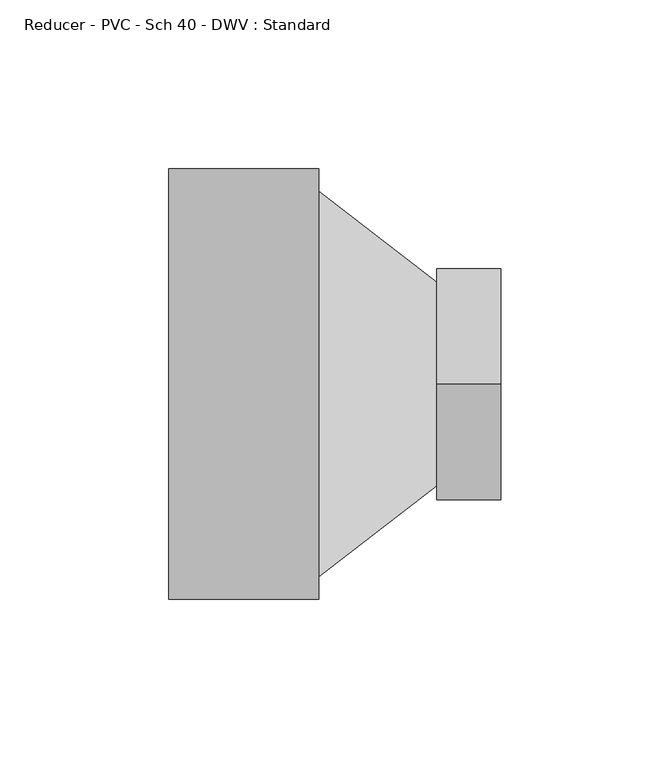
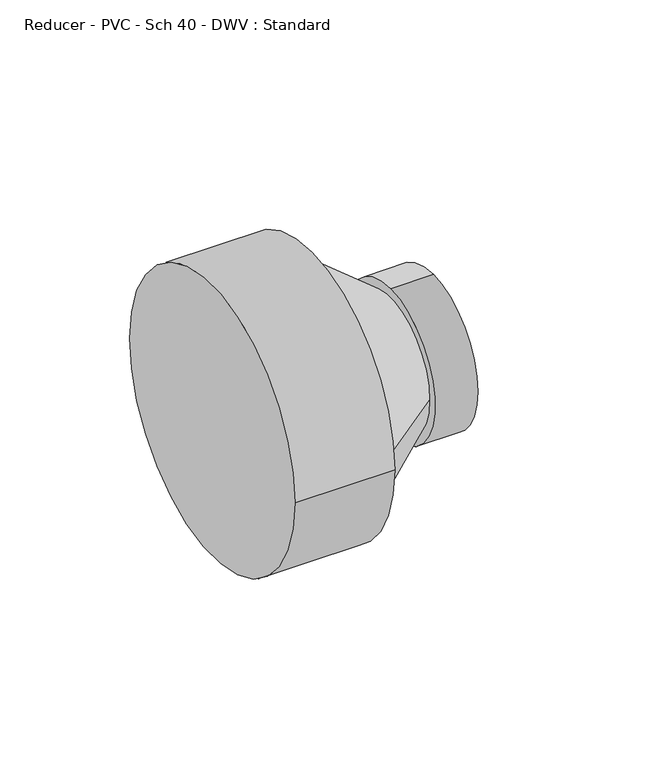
"""IFC4 building model written with IfcOpenShell, lengths in millimetres: pipe fitting geometry, Reducer - PVC - Sch 40 - DWV : Standard."""

import ifcopenshell
import ifcopenshell.guid

model = None  # the IFC model being written
_history = None  # IfcOwnerHistory: only IFC2X3 demands one
_inside = {}  # id of a spatial element -> (the spatial element, [elements in it])
_under = {}  # id of a project, library or spatial element -> (it, [spatial elements below it])
_declared = {}  # id of a project -> (the project, [libraries it declares])
_typed = {}  # id of a type object -> (the type object, [elements of that type])
_made_of = {}  # id of a material, layer set ... -> (it, [elements and type objects made of it])


def new_model(schema):
    """Start an empty IFC model of exactly this schema.

    Asked for "IFC4X3", IfcOpenShell would pick the latest addendum, in which some entities
    have other attributes; the version numbers below select the first issue.
    IFC2X3 requires an IfcOwnerHistory on every rooted entity: one is made here for all.
    """
    global model, _history
    if schema == "IFC4X3":
        model = ifcopenshell.file(schema_version=(4, 3, 0, 0))
    else:
        model = ifcopenshell.file(schema=schema)
    _inside.clear()
    _under.clear()
    _declared.clear()
    _typed.clear()
    _made_of.clear()
    _history = None
    if model.schema == "IFC2X3":
        org = make("IfcOrganization", Name="unknown")
        user = make(
            "IfcPersonAndOrganization",
            ThePerson=make("IfcPerson", FamilyName="unknown"),
            TheOrganization=org,
        )
        app = make(
            "IfcApplication",
            ApplicationDeveloper=org,
            Version="unknown",
            ApplicationFullName="unknown",
            ApplicationIdentifier="unknown",
        )
        _history = make(
            "IfcOwnerHistory",
            OwningUser=user,
            OwningApplication=app,
            ChangeAction="ADDED",
            CreationDate=0,
        )
    return model


def make(cls, **values):
    """One entity of the class cls with the attributes given. An attribute that is None is left unset."""
    return model.create_entity(
        cls, **{name: value for name, value in values.items() if value is not None}
    )


def rooted(cls, **values):
    """An entity with a GlobalId (a new one), such as an element, a storey or a relation."""
    return make(cls, GlobalId=ifcopenshell.guid.new(), OwnerHistory=_history, **values)


def si_unit(unit_type, name, prefix=None):
    """IfcSIUnit, for example si_unit("LENGTHUNIT", "METRE", prefix="MILLI")."""
    return make("IfcSIUnit", UnitType=unit_type, Prefix=prefix, Name=name)


def assignment(units):
    """IfcUnitAssignment: the units of a project."""
    return None if units is None else make("IfcUnitAssignment", Units=units)


def point(xyz):
    """IfcCartesianPoint."""
    return None if xyz is None else make("IfcCartesianPoint", Coordinates=xyz)


def direction(xyz):
    """IfcDirection."""
    return None if xyz is None else make("IfcDirection", DirectionRatios=xyz)


def frame(location, z_axis=None, x_axis=None):
    """IfcAxis2Placement3D, a coordinate frame: its origin and axes. An axis left out is left unset."""
    return make(
        "IfcAxis2Placement3D",
        Location=point(location),
        Axis=direction(z_axis),
        RefDirection=direction(x_axis),
    )


def origin():
    """The frame at (0, 0, 0) with its axes left unset."""
    return frame((0.0, 0.0, 0.0))


def place(relative_to, where):
    """IfcLocalPlacement: puts the frame where relative to a parent placement (None: the world)."""
    return make(
        "IfcLocalPlacement", PlacementRelTo=relative_to, RelativePlacement=where
    )


def context(
    kind, dimensions, precision=None, world=None, true_north=None, identifier=None
):
    """IfcGeometricRepresentationContext, for example the 3D "Model" context."""
    return make(
        "IfcGeometricRepresentationContext",
        ContextIdentifier=identifier,
        ContextType=kind,
        CoordinateSpaceDimension=dimensions,
        Precision=precision,
        WorldCoordinateSystem=world,
        TrueNorth=true_north,
    )


def project(units=None, contexts=None):
    """IfcProject with its units and contexts."""
    return rooted(
        "IfcProject",
        Name="project",
        RepresentationContexts=contexts,
        UnitsInContext=assignment(units),
    )


def spatial(cls, under=None, at=None, **own):
    """A site, building, storey or space (cls), placed at a placement, below another one or the project."""
    s = rooted(cls, ObjectPlacement=at, **own)
    if under is not None:
        _under.setdefault(under.id(), (under, []))[1].append(s)
    return s


def circle_curve(where, radius):
    """IfcCircle in the frame where."""
    return make("IfcCircle", Position=where, Radius=radius)


def shape(context_of_items, identifier, shape_type, items):
    """IfcShapeRepresentation: the items that make up one representation, for example the "Body"."""
    return make(
        "IfcShapeRepresentation",
        ContextOfItems=context_of_items,
        RepresentationIdentifier=identifier,
        RepresentationType=shape_type,
        Items=items,
    )


def source(mapping_origin, context_of_items, identifier, shape_type, items):
    """IfcRepresentationMap: a shape defined once, which mapped items show again and again."""
    return make(
        "IfcRepresentationMap",
        MappingOrigin=mapping_origin,
        MappedRepresentation=shape(context_of_items, identifier, shape_type, items),
    )


def transform(
    local_origin,
    x_axis=None,
    y_axis=None,
    z_axis=None,
    scale=None,
    scale2=None,
    scale3=None,
    uniform=True,
):
    """IfcCartesianTransformationOperator3D, or its non-uniform kind. x_axis, y_axis, z_axis: its Axis1, 2, 3."""
    if uniform:
        return make(
            "IfcCartesianTransformationOperator3D",
            Axis1=direction(x_axis),
            Axis2=direction(y_axis),
            LocalOrigin=point(local_origin),
            Scale=scale,
            Axis3=direction(z_axis),
        )
    return make(
        "IfcCartesianTransformationOperator3DnonUniform",
        Axis1=direction(x_axis),
        Axis2=direction(y_axis),
        LocalOrigin=point(local_origin),
        Scale=scale,
        Axis3=direction(z_axis),
        Scale2=scale2,
        Scale3=scale3,
    )


def mapped(mapping_source, mapping_target):
    """IfcMappedItem: shows the shape of a source again, moved by a transform."""
    return make(
        "IfcMappedItem", MappingSource=mapping_source, MappingTarget=mapping_target
    )


def made_of(thing, what):
    """Note that an element or type object is made of a material, layer set ...; save() writes the relation."""
    if what is not None:
        _made_of.setdefault(what.id(), (what, []))[1].append(thing)
    return thing


def element(
    cls,
    number,
    at=None,
    inside=None,
    cuts=None,
    type_object=None,
    material=None,
    context=None,
    identifier="Body",
    shape_type=None,
    held_by="IfcProductDefinitionShape",
    body=None,
    shapes=None,
    **own,
):
    """One element of the class cls, such as IfcWall. Its Tag is "e" and its number.

    at: its placement. inside: the storey or other place that contains it. cuts: it is an
    opening in that element (IfcRelVoidsElement). A single representation is given by context,
    identifier, shape_type and body (its items); several are given by shapes. held_by: the class
    of the entity that holds the representations. save() writes the other relations.
    """
    e = rooted(cls, Tag="e%d" % number, ObjectPlacement=at, **own)
    if body is not None:
        shapes = [shape(context, identifier, shape_type, body)]
    if shapes is not None:
        e.Representation = make(held_by, Representations=shapes)
    if inside is not None:
        _inside.setdefault(inside.id(), (inside, []))[1].append(e)
    if cuts is not None:
        rooted(
            "IfcRelVoidsElement", RelatingBuildingElement=cuts, RelatedOpeningElement=e
        )
    if type_object is not None:
        _typed.setdefault(type_object.id(), (type_object, []))[1].append(e)
    return made_of(e, material)


def aggregate(whole, parts):
    """IfcRelAggregates: a whole, such as a stair, and the parts it consists of."""
    return rooted("IfcRelAggregates", RelatingObject=whole, RelatedObjects=parts)


def save(model, path):
    """Write the relations noted so far, then the file.

    IfcRelAggregates (storeys below a building ...), IfcRelContainedInSpatialStructure (elements
    in a storey), IfcRelDefinesByType, IfcRelAssociatesMaterial and IfcRelDeclares: one each for
    every whole, place, type object, material and project.
    """
    for whole, parts in _under.values():
        aggregate(whole, parts)
    for where, things in _inside.values():
        rooted(
            "IfcRelContainedInSpatialStructure",
            RelatedElements=things,
            RelatingStructure=where,
        )
    for kind, things in _typed.values():
        rooted("IfcRelDefinesByType", RelatedObjects=things, RelatingType=kind)
    for what, things in _made_of.values():
        rooted("IfcRelAssociatesMaterial", RelatedObjects=things, RelatingMaterial=what)
    for by, libraries in _declared.values():
        rooted("IfcRelDeclares", RelatingContext=by, RelatedDefinitions=libraries)
    model.write(path)


def plane_surface(at):
    """IfcPlane: the flat surface through the origin of the frame at, square to its z axis."""
    return make("IfcPlane", Position=at)


def cylinder_surface(at, radius):
    """IfcCylindricalSurface: all points at the distance radius from the z axis of the frame at."""
    return make("IfcCylindricalSurface", Position=at, Radius=radius)


def spline_surface(u_degree, v_degree, points, u_multiplicities, v_multiplicities, u_knots, v_knots, weights=None):
    """IfcBSplineSurfaceWithKnots; with weights, IfcRationalBSplineSurfaceWithKnots. points: one row for each step in u."""
    own = dict(
        UDegree=u_degree,
        VDegree=v_degree,
        ControlPointsList=[[point(p) for p in row] for row in points],
        SurfaceForm="UNSPECIFIED",
        UClosed=False,
        VClosed=False,
        SelfIntersect=False,
        UMultiplicities=u_multiplicities,
        VMultiplicities=v_multiplicities,
        UKnots=u_knots,
        VKnots=v_knots,
        KnotSpec="UNSPECIFIED",
    )
    if weights is None:
        return make("IfcBSplineSurfaceWithKnots", **own)
    return make("IfcRationalBSplineSurfaceWithKnots", WeightsData=weights, **own)


def advanced_brep(points, edges, surfaces, faces):
    """IfcAdvancedBrep: a solid bounded by faces that lie on surfaces and meet in shared edges.

    An edge is (start, end): straight between two places in points (the first is 0);
    or (start, end, curve); or (start, end, curve, False) where it runs against its curve.
    A face is (place in surfaces, loops), or (place, loops, False) where it looks against
    its surface's normal. A loop lists edges by number (the first is 1), with a minus sign
    where the edge is run from its end to its start. The first loop is the outer one.
    """
    corners = [point(p) for p in points]
    vertices = [make("IfcVertexPoint", VertexGeometry=c) for c in corners]
    made = []
    for start, end, *more in edges:
        made.append(
            make(
                "IfcEdgeCurve",
                EdgeStart=vertices[start],
                EdgeEnd=vertices[end],
                EdgeGeometry=more[0] if more else make("IfcPolyline", Points=[corners[start], corners[end]]),
                SameSense=more[1] if len(more) > 1 else True,
            )
        )
    hull = []
    for where, loops, *sense in faces:
        bounds = []
        for j, loop in enumerate(loops):
            ring = [make("IfcOrientedEdge", EdgeElement=made[abs(k) - 1], Orientation=k > 0) for k in loop]
            bounds.append(
                make(
                    "IfcFaceOuterBound" if j == 0 else "IfcFaceBound",
                    Bound=make("IfcEdgeLoop", EdgeList=ring),
                    Orientation=True,
                )
            )
        hull.append(make("IfcAdvancedFace", Bounds=bounds, FaceSurface=surfaces[where], SameSense=sense[0] if sense else True))
    return make("IfcAdvancedBrep", Outer=make("IfcClosedShell", CfsFaces=hull))


def reducer_pvc_sch_40_dwv_standard_c37f7539(model_context):
    return source(origin(), model_context, "Body", "AdvancedBrep", [
        advanced_brep(
        [(0.0, -63.754, 0.0), (0.0, 63.754, 0.0), (44.45, -63.754, 0.0), (44.45, 63.754, 0.0), (44.45, 57.15, 0.0), (44.45, -57.15, 0.0), (79.375, 30.1625101, 0.0), (79.375, -30.1624899, 0.0), (79.375, 1.01e-05, 34.3154), (79.375, 1.01e-05, -34.3154), (98.425, 1.01e-05, 34.3154), (98.425, 1.01e-05, -34.3154)],
        [
            (0, 1, circle_curve(frame((0.0, 0.0, 0.0), z_axis=(-1.0, 0.0, 0.0), x_axis=(0.0, 1.0, 0.0)), 63.754)),
            (1, 0, circle_curve(frame((0.0, 0.0, 0.0), z_axis=(-1.0, 0.0, 0.0), x_axis=(0.0, 1.0, 0.0)), 63.754)),
            (2, 3, circle_curve(frame((44.45, 0.0, 0.0), z_axis=(1.0, 0.0, 0.0), x_axis=(0.0, 1.0, 0.0)), 63.754)),
            (3, 2, circle_curve(frame((44.45, 0.0, 0.0), z_axis=(1.0, 0.0, 0.0), x_axis=(0.0, 1.0, 0.0)), 63.754)),
            (4, 5, circle_curve(frame((44.45, 0.0, 0.0), z_axis=(-1.0, 0.0, 0.0), x_axis=(0.0, 1.0, 0.0)), 57.15)),
            (5, 4, circle_curve(frame((44.45, 0.0, 0.0), z_axis=(-1.0, 0.0, 0.0), x_axis=(0.0, 1.0, 0.0)), 57.15)),
            (0, 2),
            (3, 1),
            (4, 6),
            (6, 7, circle_curve(frame((79.375, 1.01e-05, 0.0), z_axis=(-1.0, 0.0, 0.0), x_axis=(0.0, 1.0, 0.0)), 30.1625)),
            (7, 5),
            (7, 6, circle_curve(frame((79.375, 1.01e-05, 0.0), z_axis=(-1.0, 0.0, 0.0), x_axis=(0.0, 1.0, 0.0)), 30.1625)),
            (8, 9, circle_curve(frame((79.375, 1.01e-05, 0.0), z_axis=(-1.0, 0.0, 0.0), x_axis=(0.0, 0.0, -1.0)), 34.3154)),
            (9, 8, circle_curve(frame((79.375, 1.01e-05, 0.0), z_axis=(-1.0, 0.0, 0.0), x_axis=(0.0, 0.0, -1.0)), 34.3154)),
            (10, 11, circle_curve(frame((98.425, 1.01e-05, 0.0), z_axis=(1.0, 0.0, 0.0), x_axis=(0.0, 0.0, -1.0)), 34.3154)),
            (11, 10, circle_curve(frame((98.425, 1.01e-05, 0.0), z_axis=(1.0, 0.0, 0.0), x_axis=(0.0, 0.0, -1.0)), 34.3154)),
            (8, 10),
            (11, 9),
        ],
        [
            plane_surface(frame((0.0, 0.0, 0.0), z_axis=(-1.0, 0.0, 0.0), x_axis=(0.0, 0.0, 1.0))),
            plane_surface(frame((44.45, 0.0, 0.0), z_axis=(1.0, 0.0, 0.0), x_axis=(0.0, 0.0, 1.0))),
            cylinder_surface(frame((0.0, 0.0, 0.0), z_axis=(-1.0, 0.0, 0.0), x_axis=(0.0, 1.0, 0.0)), 63.754),
            spline_surface(2, 1, [[(44.45, -57.15, 0.0), (79.375, -30.1624899, 0.0)], [(44.45, -57.15, -57.15), (79.375, -30.1624899, -30.1625)], [(44.45, 0.0, -57.15), (79.375, 1.01e-05, -30.1625)], [(44.45, 57.15, -57.15), (79.375, 30.162510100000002, -30.1625)], [(44.45, 57.15, 0.0), (79.375, 30.1625101, 0.0)]], [3, 2, 3], [2, 2], [0.0, 1.0, 2.0], [0.0, 1.0], weights=[[1.0, 1.0], [0.7071067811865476, 0.7071067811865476], [1.0, 1.0], [0.7071067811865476, 0.7071067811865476], [1.0, 1.0]]),
            spline_surface(2, 1, [[(44.45, 57.15, 0.0), (79.375, 30.1625101, 0.0)], [(44.45, 57.15, 57.15), (79.375, 30.1625101, 30.162499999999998)], [(44.45, 0.0, 57.15), (79.375, 1.01e-05, 30.162499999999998)], [(44.45, -57.15, 57.15), (79.375, -30.162489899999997, 30.162499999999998)], [(44.45, -57.15, 0.0), (79.375, -30.1624899, 0.0)]], [3, 2, 3], [2, 2], [0.0, 1.0, 2.0], [0.0, 1.0], weights=[[1.0, 1.0], [0.7071067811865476, 0.7071067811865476], [1.0, 1.0], [0.7071067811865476, 0.7071067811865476], [1.0, 1.0]]),
            plane_surface(frame((79.375, 1.01e-05, 0.0), z_axis=(-1.0, 0.0, 0.0), x_axis=(0.0, 1.0, 0.0))),
            plane_surface(frame((98.425, 1.01e-05, 0.0), z_axis=(1.0, 0.0, 0.0), x_axis=(0.0, 1.0, 0.0))),
            cylinder_surface(frame((79.375, 1.01e-05, 0.0), z_axis=(-1.0, 0.0, 0.0), x_axis=(0.0, 0.0, -1.0)), 34.3154),
        ],
        [
            (0, [[1, 2]]),
            (1, [[3, 4], [5, 6]]),
            (2, [[-1, 7, -4, 8]]),
            (2, [[-2, -8, -3, -7]]),
            (3, [[9, 10, 11, -5]]),
            (4, [[-9, -6, -11, 12]]),
            (5, [[13, 14], [-10, -12]]),
            (6, [[15, 16]]),
            (7, [[-13, 17, -16, 18]]),
            (7, [[-14, -18, -15, -17]]),
        ],
    ),
    ])


if __name__ == "__main__":
    model = new_model("IFC4")
    model_context = context("Model", 3, world=origin())
    ifc_project = project(units=[si_unit("LENGTHUNIT", "METRE", prefix="MILLI")], contexts=[model_context])
    site = spatial("IfcSite", under=ifc_project)
    building = spatial("IfcBuilding", under=site)
    placement = place(None, origin())
    reducer_pvc_sch_40_dwv_standard_shape = reducer_pvc_sch_40_dwv_standard_c37f7539(model_context)
    element("IfcPipeFitting", 1, ObjectType="Reducer - PVC - Sch 40 - DWV : Standard", at=placement, inside=building, context=model_context, shape_type="MappedRepresentation", body=[
        mapped(reducer_pvc_sch_40_dwv_standard_shape, transform((0.0, 0.0, 0.0), x_axis=(1.0, 0.0, 0.0), y_axis=(0.0, 1.0, 0.0), z_axis=(0.0, 0.0, 1.0))),
    ])
    save(model, "model.ifc")
